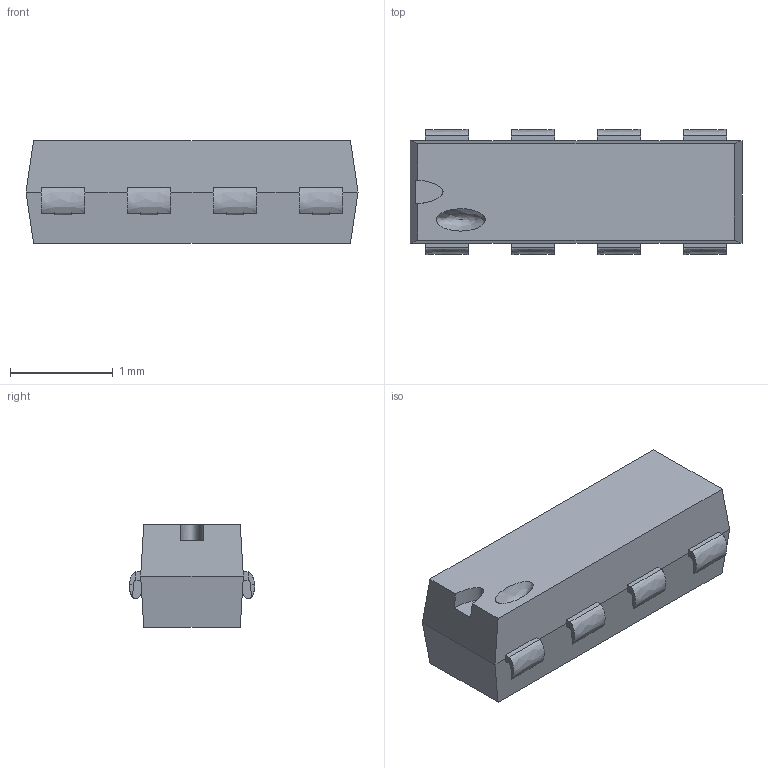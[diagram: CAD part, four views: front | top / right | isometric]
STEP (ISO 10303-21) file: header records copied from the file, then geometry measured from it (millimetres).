
FILE_DESCRIPTION(/* description */ ('STEP AP242 Edition 2','CAx-IF Rec.Pracs.---Representation and Presentation of Product Manufacturing Information (PMI)---4.0---2014-10-13','CAx-IF Rec.Pracs.---3D Tessellated Geometry---0.4---2014-09-14','2;1','CAx-IF Rec.Pracs.---User Defined Attributes---1.5---2016-08-15'),/* implementation_level */ '2;1');
FILE_NAME(/* name */ 'Drone Layout - Surface 408',/* time_stamp */ '2026-10-04T22:22:59Z',/* author */ (''),/* organization */ (''),/* preprocessor_version */ 'ST-DEVELOPER v20',/* originating_system */ 'ONSHAPE BY PTC INC, 1.221',/* authorisation */ ' ');
FILE_SCHEMA (('AP242_MANAGED_MODEL_BASED_3D_ENGINEERING_MIM_LF { 1 0 10303 442 3 1 4 }'));
Length unit declared in the file: metre
Products named in the file (1): DIP-8 N v1:1__Body1
Bounding box: 3.23 x 1.22 x 1 mm (x, y, z)
Volume: 3.1 mm3; surface area: 15.9 mm2
Topology: 1 solids, 1 shells, 141 faces, 365 edges, 226 vertices
Faces by surface type: plane 115, cylinder 16, bspline 10
Entity records: 4536 total; most frequent: CARTESIAN_POINT 1256, ORIENTED_EDGE 728, DIRECTION 544, EDGE_CURVE 364, VERTEX_POINT 226, LINE 214, VECTOR 214, AXIS2_PLACEMENT_3D 165
